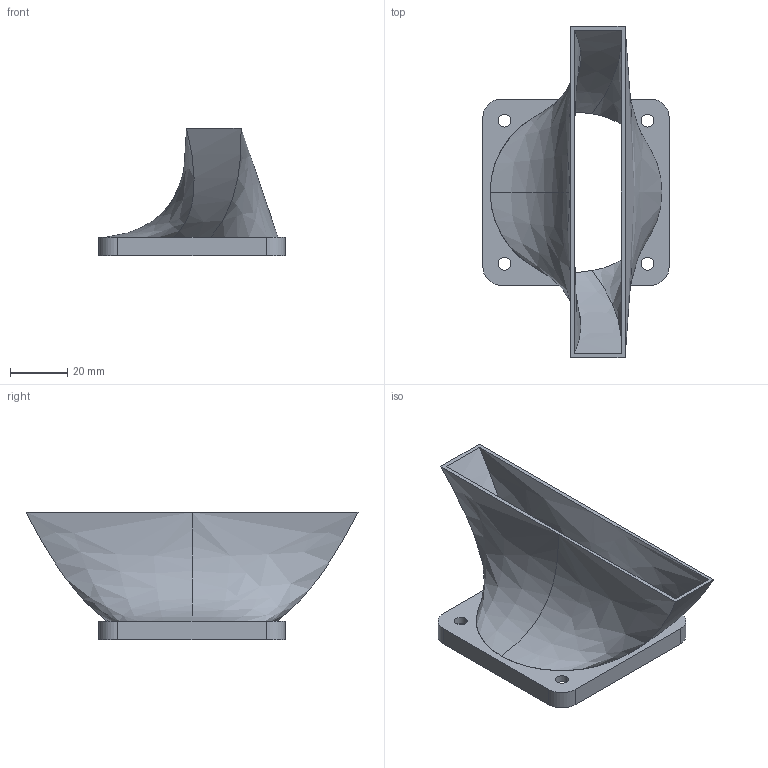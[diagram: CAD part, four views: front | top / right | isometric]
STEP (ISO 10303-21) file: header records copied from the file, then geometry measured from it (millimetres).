
FILE_DESCRIPTION (( 'STEP AP203' ), '1' );
FILE_NAME ('Type_B_Air_Duct_Short.STEP', '2026-07-29T20:52:06', ( '' ), ( '' ), 'SwSTEP 2.0', 'SolidWorks 2024', '' );
FILE_SCHEMA (( 'CONFIG_CONTROL_DESIGN' ));
Length unit declared in the file: inch
Products named in the file (1): Type_B_Air_Duct_Short
Bounding box: 65.08 x 115.99 x 44.64 mm (x, y, z)
Volume: 17233.9 mm3; surface area: 24931.3 mm2
Topology: 2 solids, 2 shells, 41 faces, 108 edges, 72 vertices
Faces by surface type: cylinder 18, plane 13, bspline 10
Entity records: 13182 total; most frequent: CARTESIAN_POINT 12090, ORIENTED_EDGE 216, DIRECTION 193, EDGE_CURVE 108, AXIS2_PLACEMENT_3D 73, VERTEX_POINT 72, EDGE_LOOP 54, LINE 47
